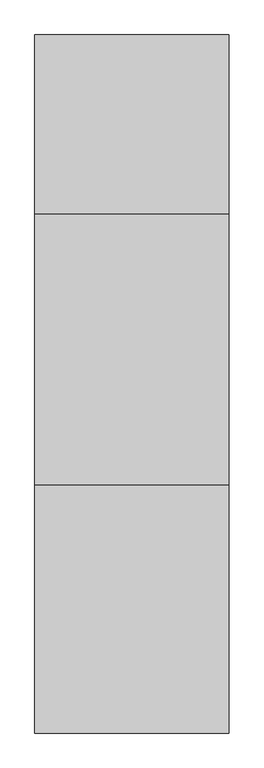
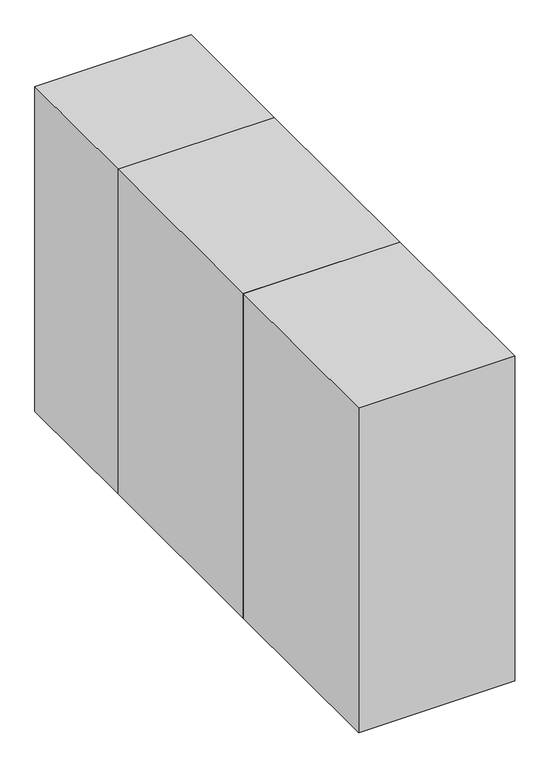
"""IFC4 building model written with IfcOpenShell, lengths in millimetres: furniture geometry, BIMHealth-Amplifier_Cabinet-LOD2A-v1 : BIMHealth-Amplifier_Cabinet-LOD2A-v1."""

from ifc_helpers import new_model, si_unit, point, frame, frame_2d, origin, origin_with_axes, place, context, project, spatial, polyline, circle_curve, trimmed, segment, composite_curve, outline, extrude, source, transform, mapped, element, save


def furniture_74cce83f(model_context):
    return source(origin(), model_context, "Body", "SweptSolid", [
        extrude(outline(polyline([(302.5, 490.0), (302.5, 465.0), (-302.5, 465.0), (-302.5, 490.0), (302.5, 490.0)])), frame((0.0, 0.0, 100.0), z_axis=(0.0, 0.0, 1.0), x_axis=(1.0, 0.0, 0.0)), (0.0, 0.0, 1.0), 1350.0),
        extrude(outline(polyline([(75.0, -327.5), (75.0, 327.5), (1475.0, 327.5), (1475.0, -327.5), (75.0, -327.5)]), holes=[polyline([(1425.0, 277.5), (125.0, 277.5), (125.0, -277.5), (1425.0, -277.5), (1425.0, 277.5)])]), frame((0.0, 490.0, 0.0), z_axis=(0.0, 1.0, 0.0), x_axis=(0.0, 0.0, 1.0)), (0.0, 0.0, 1.0), 25.0),
        extrude(outline(polyline([(875.0, 152.5), (775.0, 152.5), (775.0, 252.5), (875.0, 252.5), (875.0, 152.5)]), holes=[composite_curve([segment(trimmed(circle_curve(frame_2d((825.0, 202.5)), 30.0), [point((825.0, 172.5))], [point((825.0, 232.5))], True, "CARTESIAN"), True, "CONTINUOUS"), segment(trimmed(circle_curve(frame_2d((825.0, 202.5)), 30.0), [point((825.0, 232.5))], [point((825.0, 172.5))], True, "CARTESIAN"), True, "CONTINUOUS")], self_intersect=False)]), frame((0.0, 490.0, 0.0), z_axis=(0.0, 1.0, 0.0), x_axis=(0.0, 0.0, 1.0)), (0.0, 0.0, 1.0), 25.0),
        extrude(outline(polyline([(680.0, 277.5), (125.0, -277.5), (125.0, -263.3578644), (665.8578644, 277.5), (680.0, 277.5)])), frame((0.0, 490.0, 0.0), z_axis=(0.0, 1.0, 0.0), x_axis=(0.0, 0.0, 1.0)), (0.0, 0.0, 1.0), 15.0),
        extrude(outline(polyline([(595.1471863, 277.5), (125.0, -192.6471863), (125.0, -178.5050506), (581.0050506, 277.5), (595.1471863, 277.5)])), frame((0.0, 490.0, 0.0), z_axis=(0.0, 1.0, 0.0), x_axis=(0.0, 0.0, 1.0)), (0.0, 0.0, 1.0), 15.0),
        extrude(outline(polyline([(510.2943725, 277.5), (125.0, -107.7943725), (125.0, -93.6522369), (496.1522369, 277.5), (510.2943725, 277.5)])), frame((0.0, 490.0, 0.0), z_axis=(0.0, 1.0, 0.0), x_axis=(0.0, 0.0, 1.0)), (0.0, 0.0, 1.0), 15.0),
        extrude(outline(polyline([(425.4415588, 277.5), (125.0, -22.9415588), (125.0, -8.7994231), (411.2994231, 277.5), (425.4415588, 277.5)])), frame((0.0, 490.0, 0.0), z_axis=(0.0, 1.0, 0.0), x_axis=(0.0, 0.0, 1.0)), (0.0, 0.0, 1.0), 15.0),
        extrude(outline(polyline([(340.588745, 277.5), (125.0, 61.911255), (125.0, 76.0533906), (326.4466094, 277.5), (340.588745, 277.5)])), frame((0.0, 490.0, 0.0), z_axis=(0.0, 1.0, 0.0), x_axis=(0.0, 0.0, 1.0)), (0.0, 0.0, 1.0), 15.0),
        extrude(outline(polyline([(255.7359313, 277.5), (125.0, 146.7640687), (125.0, 160.9062043), (241.5937957, 277.5), (255.7359313, 277.5)])), frame((0.0, 490.0, 0.0), z_axis=(0.0, 1.0, 0.0), x_axis=(0.0, 0.0, 1.0)), (0.0, 0.0, 1.0), 15.0),
        extrude(outline(polyline([(170.8831175, 277.5), (125.0, 231.6168825), (125.0, 245.7590181), (156.7409819, 277.5), (170.8831175, 277.5)])), frame((0.0, 490.0, 0.0), z_axis=(0.0, 1.0, 0.0), x_axis=(0.0, 0.0, 1.0)), (0.0, 0.0, 1.0), 15.0),
        extrude(outline(polyline([(750.7106781, 277.5), (764.8528137, 277.5), (209.8528137, -277.5), (195.7106781, -277.5), (750.7106781, 277.5)])), frame((0.0, 490.0, 0.0), z_axis=(0.0, 1.0, 0.0), x_axis=(0.0, 0.0, 1.0)), (0.0, 0.0, 1.0), 15.0),
        extrude(outline(polyline([(1005.2691193, 277.5), (1019.411255, 277.5), (464.411255, -277.5), (450.2691193, -277.5), (1005.2691193, 277.5)])), frame((0.0, 490.0, 0.0), z_axis=(0.0, 1.0, 0.0), x_axis=(0.0, 0.0, 1.0)), (0.0, 0.0, 1.0), 15.0),
        extrude(outline(polyline([(1090.1219331, 277.5), (1104.2640687, 277.5), (549.2640687, -277.5), (535.1219331, -277.5), (1090.1219331, 277.5)])), frame((0.0, 490.0, 0.0), z_axis=(0.0, 1.0, 0.0), x_axis=(0.0, 0.0, 1.0)), (0.0, 0.0, 1.0), 15.0),
        extrude(outline(polyline([(1174.9747468, 277.5), (1189.1168825, 277.5), (634.1168825, -277.5), (619.9747468, -277.5), (1174.9747468, 277.5)])), frame((0.0, 490.0, 0.0), z_axis=(0.0, 1.0, 0.0), x_axis=(0.0, 0.0, 1.0)), (0.0, 0.0, 1.0), 15.0),
        extrude(outline(polyline([(1259.8275606, 277.5), (1273.9696962, 277.5), (718.9696962, -277.5), (704.8275606, -277.5), (1259.8275606, 277.5)])), frame((0.0, 490.0, 0.0), z_axis=(0.0, 1.0, 0.0), x_axis=(0.0, 0.0, 1.0)), (0.0, 0.0, 1.0), 15.0),
        extrude(outline(polyline([(1344.6803743, 277.5), (1358.8225099, 277.5), (803.8225099, -277.5), (789.6803743, -277.5), (1344.6803743, 277.5)])), frame((0.0, 490.0, 0.0), z_axis=(0.0, 1.0, 0.0), x_axis=(0.0, 0.0, 1.0)), (0.0, 0.0, 1.0), 15.0),
        extrude(outline(polyline([(1425.0, 272.9668119), (1425.0, 258.8246763), (888.6753237, -277.5), (874.5331881, -277.5), (1425.0, 272.9668119)])), frame((0.0, 490.0, 0.0), z_axis=(0.0, 1.0, 0.0), x_axis=(0.0, 0.0, 1.0)), (0.0, 0.0, 1.0), 15.0),
        extrude(outline(polyline([(1425.0, 188.1139982), (1425.0, 173.9718626), (973.5281374, -277.5), (959.3860018, -277.5), (1425.0, 188.1139982)])), frame((0.0, 490.0, 0.0), z_axis=(0.0, 1.0, 0.0), x_axis=(0.0, 0.0, 1.0)), (0.0, 0.0, 1.0), 15.0),
        extrude(outline(polyline([(1425.0, 103.2611845), (1425.0, 89.1190488), (1058.3809512, -277.5), (1044.2388155, -277.5), (1425.0, 103.2611845)])), frame((0.0, 490.0, 0.0), z_axis=(0.0, 1.0, 0.0), x_axis=(0.0, 0.0, 1.0)), (0.0, 0.0, 1.0), 15.0),
        extrude(outline(polyline([(1425.0, 18.4083707), (1425.0, 4.2662351), (1143.2337649, -277.5), (1129.0916293, -277.5), (1425.0, 18.4083707)])), frame((0.0, 490.0, 0.0), z_axis=(0.0, 1.0, 0.0), x_axis=(0.0, 0.0, 1.0)), (0.0, 0.0, 1.0), 15.0),
        extrude(outline(polyline([(1425.0, -66.444443), (1425.0, -80.5865787), (1228.0865787, -277.5), (1213.944443, -277.5), (1425.0, -66.444443)])), frame((0.0, 490.0, 0.0), z_axis=(0.0, 1.0, 0.0), x_axis=(0.0, 0.0, 1.0)), (0.0, 0.0, 1.0), 15.0),
        extrude(outline(polyline([(1425.0, -151.2972568), (1425.0, -165.4393924), (1312.9393924, -277.5), (1298.7972568, -277.5), (1425.0, -151.2972568)])), frame((0.0, 490.0, 0.0), z_axis=(0.0, 1.0, 0.0), x_axis=(0.0, 0.0, 1.0)), (0.0, 0.0, 1.0), 15.0),
        extrude(outline(polyline([(1425.0, -236.1500705), (1425.0, -250.2922061), (1397.7922061, -277.5), (1383.6500705, -277.5), (1425.0, -236.1500705)])), frame((0.0, 490.0, 0.0), z_axis=(0.0, 1.0, 0.0), x_axis=(0.0, 0.0, 1.0)), (0.0, 0.0, 1.0), 15.0),
        extrude(outline(polyline([(294.7056275, -277.5), (280.5634919, -277.5), (770.1955262, 212.1320344), (775.0, 207.3275606), (775.0, 202.7943725), (294.7056275, -277.5)])), frame((0.0, 490.0, 0.0), z_axis=(0.0, 1.0, 0.0), x_axis=(0.0, 0.0, 1.0)), (0.0, 0.0, 1.0), 15.0),
        extrude(outline(polyline([(379.5584412, -277.5), (365.4163056, -277.5), (795.4163056, 152.5), (809.5584412, 152.5), (379.5584412, -277.5)])), frame((0.0, 490.0, 0.0), z_axis=(0.0, 1.0, 0.0), x_axis=(0.0, 0.0, 1.0)), (0.0, 0.0, 1.0), 15.0),
        extrude(outline(polyline([(920.4163056, 277.5), (934.5584412, 277.5), (875.0, 217.9415588), (875.0, 232.0836944), (920.4163056, 277.5)])), frame((0.0, 490.0, 0.0), z_axis=(0.0, 1.0, 0.0), x_axis=(0.0, 0.0, 1.0)), (0.0, 0.0, 1.0), 15.0),
        extrude(outline(polyline([(835.5634919, 277.5), (849.7056275, 277.5), (826.7640687, 254.5584412), (819.6930009, 261.629509), (835.5634919, 277.5)])), frame((0.0, 490.0, 0.0), z_axis=(0.0, 1.0, 0.0), x_axis=(0.0, 0.0, 1.0)), (0.0, 0.0, 1.0), 15.0),
        extrude(outline(polyline([(680.0, -277.5), (665.8578644, -277.5), (125.0, 263.3578644), (125.0, 277.5), (680.0, -277.5)])), frame((0.0, 490.0, 0.0), z_axis=(0.0, 1.0, 0.0), x_axis=(0.0, 0.0, 1.0)), (0.0, 0.0, 1.0), 15.0),
        extrude(outline(polyline([(595.1471863, -277.5), (581.0050506, -277.5), (125.0, 178.5050506), (125.0, 192.6471863), (595.1471863, -277.5)])), frame((0.0, 490.0, 0.0), z_axis=(0.0, 1.0, 0.0), x_axis=(0.0, 0.0, 1.0)), (0.0, 0.0, 1.0), 15.0),
        extrude(outline(polyline([(510.2943725, -277.5), (496.1522369, -277.5), (125.0, 93.6522369), (125.0, 107.7943725), (510.2943725, -277.5)])), frame((0.0, 490.0, 0.0), z_axis=(0.0, 1.0, 0.0), x_axis=(0.0, 0.0, 1.0)), (0.0, 0.0, 1.0), 15.0),
        extrude(outline(polyline([(425.4415588, -277.5), (411.2994231, -277.5), (125.0, 8.7994231), (125.0, 22.9415588), (425.4415588, -277.5)])), frame((0.0, 490.0, 0.0), z_axis=(0.0, 1.0, 0.0), x_axis=(0.0, 0.0, 1.0)), (0.0, 0.0, 1.0), 15.0),
        extrude(outline(polyline([(340.588745, -277.5), (326.4466094, -277.5), (125.0, -76.0533906), (125.0, -61.911255), (340.588745, -277.5)])), frame((0.0, 490.0, 0.0), z_axis=(0.0, 1.0, 0.0), x_axis=(0.0, 0.0, 1.0)), (0.0, 0.0, 1.0), 15.0),
        extrude(outline(polyline([(255.7359313, -277.5), (241.5937957, -277.5), (125.0, -160.9062043), (125.0, -146.7640687), (255.7359313, -277.5)])), frame((0.0, 490.0, 0.0), z_axis=(0.0, 1.0, 0.0), x_axis=(0.0, 0.0, 1.0)), (0.0, 0.0, 1.0), 15.0),
        extrude(outline(polyline([(170.8831175, -277.5), (156.7409819, -277.5), (125.0, -245.7590181), (125.0, -231.6168825), (170.8831175, -277.5)])), frame((0.0, 490.0, 0.0), z_axis=(0.0, 1.0, 0.0), x_axis=(0.0, 0.0, 1.0)), (0.0, 0.0, 1.0), 15.0),
        extrude(outline(polyline([(750.7106781, -277.5), (195.7106781, 277.5), (209.8528137, 277.5), (764.8528137, -277.5), (750.7106781, -277.5)])), frame((0.0, 490.0, 0.0), z_axis=(0.0, 1.0, 0.0), x_axis=(0.0, 0.0, 1.0)), (0.0, 0.0, 1.0), 15.0),
        extrude(outline(polyline([(835.5634919, -277.5), (280.5634919, 277.5), (294.7056275, 277.5), (849.7056275, -277.5), (835.5634919, -277.5)])), frame((0.0, 490.0, 0.0), z_axis=(0.0, 1.0, 0.0), x_axis=(0.0, 0.0, 1.0)), (0.0, 0.0, 1.0), 15.0),
        extrude(outline(polyline([(920.4163056, -277.5), (365.4163056, 277.5), (379.5584412, 277.5), (934.5584412, -277.5), (920.4163056, -277.5)])), frame((0.0, 490.0, 0.0), z_axis=(0.0, 1.0, 0.0), x_axis=(0.0, 0.0, 1.0)), (0.0, 0.0, 1.0), 15.0),
        extrude(outline(polyline([(1005.2691193, -277.5), (450.2691193, 277.5), (464.411255, 277.5), (1019.411255, -277.5), (1005.2691193, -277.5)])), frame((0.0, 490.0, 0.0), z_axis=(0.0, 1.0, 0.0), x_axis=(0.0, 0.0, 1.0)), (0.0, 0.0, 1.0), 15.0),
        extrude(outline(polyline([(1090.1219331, -277.5), (535.1219331, 277.5), (549.2640687, 277.5), (1104.2640687, -277.5), (1090.1219331, -277.5)])), frame((0.0, 490.0, 0.0), z_axis=(0.0, 1.0, 0.0), x_axis=(0.0, 0.0, 1.0)), (0.0, 0.0, 1.0), 15.0),
        extrude(outline(polyline([(1174.9747468, -277.5), (619.9747468, 277.5), (634.1168825, 277.5), (1189.1168825, -277.5), (1174.9747468, -277.5)])), frame((0.0, 490.0, 0.0), z_axis=(0.0, 1.0, 0.0), x_axis=(0.0, 0.0, 1.0)), (0.0, 0.0, 1.0), 15.0),
        extrude(outline(polyline([(1259.8275606, -277.5), (829.8275606, 152.5), (843.9696962, 152.5), (1273.9696962, -277.5), (1259.8275606, -277.5)])), frame((0.0, 490.0, 0.0), z_axis=(0.0, 1.0, 0.0), x_axis=(0.0, 0.0, 1.0)), (0.0, 0.0, 1.0), 15.0),
        extrude(outline(polyline([(1344.6803743, -277.5), (875.0, 192.1803743), (875.0, 206.3225099), (1358.8225099, -277.5), (1344.6803743, -277.5)])), frame((0.0, 490.0, 0.0), z_axis=(0.0, 1.0, 0.0), x_axis=(0.0, 0.0, 1.0)), (0.0, 0.0, 1.0), 15.0),
        extrude(outline(polyline([(1425.0, -272.9668119), (874.5331881, 277.5), (888.6753237, 277.5), (1425.0, -258.8246763), (1425.0, -272.9668119)])), frame((0.0, 490.0, 0.0), z_axis=(0.0, 1.0, 0.0), x_axis=(0.0, 0.0, 1.0)), (0.0, 0.0, 1.0), 15.0),
        extrude(outline(polyline([(1425.0, -188.1139982), (959.3860018, 277.5), (973.5281374, 277.5), (1425.0, -173.9718626), (1425.0, -188.1139982)])), frame((0.0, 490.0, 0.0), z_axis=(0.0, 1.0, 0.0), x_axis=(0.0, 0.0, 1.0)), (0.0, 0.0, 1.0), 15.0),
        extrude(outline(polyline([(1425.0, -103.2611845), (1044.2388155, 277.5), (1058.3809512, 277.5), (1425.0, -89.1190488), (1425.0, -103.2611845)])), frame((0.0, 490.0, 0.0), z_axis=(0.0, 1.0, 0.0), x_axis=(0.0, 0.0, 1.0)), (0.0, 0.0, 1.0), 15.0),
        extrude(outline(polyline([(1425.0, -18.4083707), (1129.0916293, 277.5), (1143.2337649, 277.5), (1425.0, -4.2662351), (1425.0, -18.4083707)])), frame((0.0, 490.0, 0.0), z_axis=(0.0, 1.0, 0.0), x_axis=(0.0, 0.0, 1.0)), (0.0, 0.0, 1.0), 15.0),
        extrude(outline(polyline([(1425.0, 66.444443), (1213.944443, 277.5), (1228.0865787, 277.5), (1425.0, 80.5865787), (1425.0, 66.444443)])), frame((0.0, 490.0, 0.0), z_axis=(0.0, 1.0, 0.0), x_axis=(0.0, 0.0, 1.0)), (0.0, 0.0, 1.0), 15.0),
        extrude(outline(polyline([(1425.0, 151.2972568), (1298.7972568, 277.5), (1312.9393924, 277.5), (1425.0, 165.4393924), (1425.0, 151.2972568)])), frame((0.0, 490.0, 0.0), z_axis=(0.0, 1.0, 0.0), x_axis=(0.0, 0.0, 1.0)), (0.0, 0.0, 1.0), 15.0),
        extrude(outline(polyline([(1425.0, 236.1500705), (1383.6500705, 277.5), (1397.7922061, 277.5), (1425.0, 250.2922061), (1425.0, 236.1500705)])), frame((0.0, 490.0, 0.0), z_axis=(0.0, 1.0, 0.0), x_axis=(0.0, 0.0, 1.0)), (0.0, 0.0, 1.0), 15.0),
        extrude(outline(polyline([(803.8225099, 277.5), (828.8225099, 252.5), (814.6803743, 252.5), (789.6803743, 277.5), (803.8225099, 277.5)])), frame((0.0, 490.0, 0.0), z_axis=(0.0, 1.0, 0.0), x_axis=(0.0, 0.0, 1.0)), (0.0, 0.0, 1.0), 15.0),
        extrude(outline(polyline([(718.9696962, 277.5), (775.0, 221.4696962), (775.0, 207.3275606), (704.8275606, 277.5), (718.9696962, 277.5)])), frame((0.0, 490.0, 0.0), z_axis=(0.0, 1.0, 0.0), x_axis=(0.0, 0.0, 1.0)), (0.0, 0.0, 1.0), 15.0),
        extrude(outline(polyline([(302.5, -490.0), (-302.5, -490.0), (-302.5, -465.0), (302.5, -465.0), (302.5, -490.0)])), frame((0.0, 0.0, 100.0), z_axis=(0.0, 0.0, 1.0), x_axis=(1.0, 0.0, 0.0)), (0.0, 0.0, 1.0), 1350.0),
        extrude(outline(polyline([(75.0, -327.5), (75.0, 327.5), (1475.0, 327.5), (1475.0, -327.5), (75.0, -327.5)]), holes=[polyline([(1425.0, 277.5), (125.0, 277.5), (125.0, -277.5), (1425.0, -277.5), (1425.0, 277.5)])]), frame((0.0, -515.0, 0.0), z_axis=(0.0, 1.0, 0.0), x_axis=(0.0, 0.0, 1.0)), (0.0, 0.0, 1.0), 25.0),
        extrude(outline(polyline([(875.0, 152.5), (775.0, 152.5), (775.0, 252.5), (875.0, 252.5), (875.0, 152.5)]), holes=[composite_curve([segment(trimmed(circle_curve(frame_2d((825.0, 202.5)), 30.0), [point((825.0, 172.5))], [point((825.0, 232.5))], True, "CARTESIAN"), True, "CONTINUOUS"), segment(trimmed(circle_curve(frame_2d((825.0, 202.5)), 30.0), [point((825.0, 232.5))], [point((825.0, 172.5))], True, "CARTESIAN"), True, "CONTINUOUS")], self_intersect=False)]), frame((0.0, -515.0, 0.0), z_axis=(0.0, 1.0, 0.0), x_axis=(0.0, 0.0, 1.0)), (0.0, 0.0, 1.0), 25.0),
        extrude(outline(polyline([(125.0, -277.5), (125.0, -263.3578644), (133.7994231, -254.5584412), (125.0, -245.7590181), (125.0, -231.6168825), (140.870491, -247.4873734), (176.22583, -212.1320344), (140.870491, -176.7766953), (125.0, -192.6471863), (125.0, -178.5050506), (133.7994231, -169.7056275), (125.0, -160.9062043), (125.0, -146.7640687), (140.870491, -162.6345597), (176.22583, -127.2792206), (140.870491, -91.9238816), (125.0, -107.7943725), (125.0, -93.6522369), (133.7994231, -84.8528137), (125.0, -76.0533906), (125.0, -61.911255), (140.870491, -77.7817459), (176.22583, -42.4264069), (140.870491, -7.0710678), (125.0, -22.9415588), (125.0, -8.7994231), (133.7994231, 0.0), (125.0, 8.7994231), (125.0, 22.9415588), (140.870491, 7.0710678), (176.22583, 42.4264069), (140.870491, 77.7817459), (125.0, 61.911255), (125.0, 76.0533906), (133.7994231, 84.8528137), (125.0, 93.6522369), (125.0, 107.7943725), (140.870491, 91.9238816), (176.22583, 127.2792206), (140.870491, 162.6345597), (125.0, 146.7640687), (125.0, 160.9062043), (133.7994231, 169.7056275), (125.0, 178.5050506), (125.0, 192.6471863), (140.870491, 176.7766953), (176.22583, 212.1320344), (140.870491, 247.4873734), (125.0, 231.6168825), (125.0, 245.7590181), (133.7994231, 254.5584412), (125.0, 263.3578644), (125.0, 277.5), (140.870491, 261.629509), (156.7409819, 277.5), (170.8831175, 277.5), (147.9415588, 254.5584412), (183.2968978, 219.2031022), (218.6522369, 254.5584412), (195.7106781, 277.5), (209.8528137, 277.5), (225.7233047, 261.629509), (241.5937957, 277.5), (255.7359313, 277.5), (232.7943725, 254.5584412), (268.1497116, 219.2031022), (303.5050506, 254.5584412), (280.5634919, 277.5), (294.7056275, 277.5), (310.5761184, 261.629509), (326.4466094, 277.5), (340.588745, 277.5), (317.6471863, 254.5584412), (353.0025253, 219.2031022), (388.3578644, 254.5584412), (365.4163056, 277.5), (379.5584412, 277.5), (395.4289322, 261.629509), (411.2994231, 277.5), (425.4415588, 277.5), (402.5, 254.5584412), (437.8553391, 219.2031022), (473.2106781, 254.5584412), (450.2691193, 277.5), (464.411255, 277.5), (480.2817459, 261.629509), (496.1522369, 277.5), (510.2943725, 277.5), (487.3528137, 254.5584412), (522.7081528, 219.2031022), (558.0634919, 254.5584412), (535.1219331, 277.5), (549.2640687, 277.5), (565.1345597, 261.629509), (581.0050506, 277.5), (595.1471863, 277.5), (572.2056275, 254.5584412), (607.5609665, 219.2031022), (642.9163056, 254.5584412), (619.9747468, 277.5), (634.1168825, 277.5), (649.9873734, 261.629509), (665.8578644, 277.5), (680.0, 277.5), (657.0584412, 254.5584412), (692.4137803, 219.2031022), (727.7691193, 254.5584412), (704.8275606, 277.5), (718.9696962, 277.5), (734.8401872, 261.629509), (750.7106781, 277.5), (764.8528137, 277.5), (741.911255, 254.5584412), (775.0, 221.4696962), (775.0, 202.7943725), (741.911255, 169.7056275), (777.266594, 134.3502884), (795.4163056, 152.5), (809.5584412, 152.5), (784.3376618, 127.2792206), (819.6930009, 91.9238816), (855.04834, 127.2792206), (829.8275606, 152.5), (843.9696962, 152.5), (862.1194078, 134.3502884), (897.4747468, 169.7056275), (875.0, 192.1803743), (875.0, 206.3225099), (904.5458146, 176.7766953), (939.9011537, 212.1320344), (904.5458146, 247.4873734), (875.0, 217.9415588), (875.0, 232.0836944), (897.4747468, 254.5584412), (874.5331881, 277.5), (888.6753237, 277.5), (904.5458146, 261.629509), (920.4163056, 277.5), (934.5584412, 277.5), (911.6168825, 254.5584412), (946.9722215, 219.2031022), (982.3275606, 254.5584412), (959.3860018, 277.5), (973.5281374, 277.5), (989.3986284, 261.629509), (1005.2691193, 277.5), (1019.411255, 277.5), (996.4696962, 254.5584412), (1031.8250353, 219.2031022), (1067.1803743, 254.5584412), (1044.2388155, 277.5), (1058.3809512, 277.5), (1074.2514421, 261.629509), (1090.1219331, 277.5), (1104.2640687, 277.5), (1081.3225099, 254.5584412), (1116.677849, 219.2031022), (1152.0331881, 254.5584412), (1129.0916293, 277.5), (1143.2337649, 277.5), (1159.1042559, 261.629509), (1174.9747468, 277.5), (1189.1168825, 277.5), (1166.1753237, 254.5584412), (1201.5306627, 219.2031022), (1236.8860018, 254.5584412), (1213.944443, 277.5), (1228.0865787, 277.5), (1243.9570696, 261.629509), (1259.8275606, 277.5), (1273.9696962, 277.5), (1251.0281374, 254.5584412), (1286.3834765, 219.2031022), (1321.7388155, 254.5584412), (1298.7972568, 277.5), (1312.9393924, 277.5), (1328.8098834, 261.629509), (1344.6803743, 277.5), (1358.8225099, 277.5), (1335.8809512, 254.5584412), (1371.2362902, 219.2031022), (1406.5916293, 254.5584412), (1383.6500705, 277.5), (1397.7922061, 277.5), (1413.6626971, 261.629509), (1425.0, 272.9668119), (1425.0, 258.8246763), (1420.7337649, 254.5584412), (1425.0, 250.2922061), (1425.0, 236.1500705), (1413.6626971, 247.4873734), (1378.307358, 212.1320344), (1413.6626971, 176.7766953), (1425.0, 188.1139982), (1425.0, 173.9718626), (1420.7337649, 169.7056275), (1425.0, 165.4393924), (1425.0, 151.2972568), (1413.6626971, 162.6345597), (1378.307358, 127.2792206), (1413.6626971, 91.9238816), (1425.0, 103.2611845), (1425.0, 89.1190488), (1420.7337649, 84.8528137), (1425.0, 80.5865787), (1425.0, 66.444443), (1413.6626971, 77.7817459), (1378.307358, 42.4264069), (1413.6626971, 7.0710678), (1425.0, 18.4083707), (1425.0, 4.2662351), (1420.7337649, 0.0), (1425.0, -4.2662351), (1425.0, -18.4083707), (1413.6626971, -7.0710678), (1378.307358, -42.4264069), (1413.6626971, -77.7817459), (1425.0, -66.444443), (1425.0, -80.5865787), (1420.7337649, -84.8528137), (1425.0, -89.1190488), (1425.0, -103.2611845), (1413.6626971, -91.9238816), (1378.307358, -127.2792206), (1413.6626971, -162.6345597), (1425.0, -151.2972568), (1425.0, -165.4393924), (1420.7337649, -169.7056275), (1425.0, -173.9718626), (1425.0, -188.1139982), (1413.6626971, -176.7766953), (1378.307358, -212.1320344), (1413.6626971, -247.4873734), (1425.0, -236.1500705), (1425.0, -250.2922061), (1420.7337649, -254.5584412), (1425.0, -258.8246763), (1425.0, -272.9668119), (1413.6626971, -261.629509), (1397.7922061, -277.5), (1383.6500705, -277.5), (1406.5916293, -254.5584412), (1371.2362902, -219.2031022), (1335.8809512, -254.5584412), (1358.8225099, -277.5), (1344.6803743, -277.5), (1328.8098834, -261.629509), (1312.9393924, -277.5), (1298.7972568, -277.5), (1321.7388155, -254.5584412), (1286.3834765, -219.2031022), (1251.0281374, -254.5584412), (1273.9696962, -277.5), (1259.8275606, -277.5), (1243.9570696, -261.629509), (1228.0865787, -277.5), (1213.944443, -277.5), (1236.8860018, -254.5584412), (1201.5306627, -219.2031022), (1166.1753237, -254.5584412), (1189.1168825, -277.5), (1174.9747468, -277.5), (1159.1042559, -261.629509), (1143.2337649, -277.5), (1129.0916293, -277.5), (1152.0331881, -254.5584412), (1116.677849, -219.2031022), (1081.3225099, -254.5584412), (1104.2640687, -277.5), (1090.1219331, -277.5), (1074.2514421, -261.629509), (1058.3809512, -277.5), (1044.2388155, -277.5), (1067.1803743, -254.5584412), (1031.8250353, -219.2031022), (996.4696962, -254.5584412), (1019.411255, -277.5), (1005.2691193, -277.5), (989.3986284, -261.629509), (973.5281374, -277.5), (959.3860018, -277.5), (982.3275606, -254.5584412), (946.9722215, -219.2031022), (911.6168825, -254.5584412), (934.5584412, -277.5), (920.4163056, -277.5), (904.5458146, -261.629509), (888.6753237, -277.5), (874.5331881, -277.5), (897.4747468, -254.5584412), (862.1194078, -219.2031022), (826.7640687, -254.5584412), (849.7056275, -277.5), (835.5634919, -277.5), (819.6930009, -261.629509), (803.8225099, -277.5), (789.6803743, -277.5), (812.6219331, -254.5584412), (777.266594, -219.2031022), (741.911255, -254.5584412), (764.8528137, -277.5), (750.7106781, -277.5), (734.8401872, -261.629509), (718.9696962, -277.5), (704.8275606, -277.5), (727.7691193, -254.5584412), (692.4137803, -219.2031022), (657.0584412, -254.5584412), (680.0, -277.5), (665.8578644, -277.5), (649.9873734, -261.629509), (634.1168825, -277.5), (619.9747468, -277.5), (642.9163056, -254.5584412), (607.5609665, -219.2031022), (572.2056275, -254.5584412), (595.1471863, -277.5), (581.0050506, -277.5), (565.1345597, -261.629509), (549.2640687, -277.5), (535.1219331, -277.5), (558.0634919, -254.5584412), (522.7081528, -219.2031022), (487.3528137, -254.5584412), (510.2943725, -277.5), (496.1522369, -277.5), (480.2817459, -261.629509), (464.411255, -277.5), (450.2691193, -277.5), (473.2106781, -254.5584412), (437.8553391, -219.2031022), (402.5, -254.5584412), (425.4415588, -277.5), (411.2994231, -277.5), (395.4289322, -261.629509), (379.5584412, -277.5), (365.4163056, -277.5), (388.3578644, -254.5584412), (353.0025253, -219.2031022), (317.6471863, -254.5584412), (340.588745, -277.5), (326.4466094, -277.5), (310.5761184, -261.629509), (294.7056275, -277.5), (280.5634919, -277.5), (303.5050506, -254.5584412), (268.1497116, -219.2031022), (232.7943725, -254.5584412), (255.7359313, -277.5), (241.5937957, -277.5), (225.7233047, -261.629509), (209.8528137, -277.5), (195.7106781, -277.5), (218.6522369, -254.5584412), (183.2968978, -219.2031022), (147.9415588, -254.5584412), (170.8831175, -277.5), (156.7409819, -277.5), (140.870491, -261.629509), (125.0, -277.5)]), holes=[polyline([(395.4289322, -7.0710678), (360.0735931, -42.4264069), (395.4289322, -77.7817459), (430.7842712, -42.4264069), (395.4289322, -7.0710678)]), polyline([(353.0025253, -49.4974747), (317.6471863, -84.8528137), (353.0025253, -120.2081528), (388.3578644, -84.8528137), (353.0025253, -49.4974747)]), polyline([(310.5761184, -91.9238816), (275.2207794, -127.2792206), (310.5761184, -162.6345597), (345.9314575, -127.2792206), (310.5761184, -91.9238816)]), polyline([(268.1497116, -134.3502884), (232.7943725, -169.7056275), (268.1497116, -205.0609665), (303.5050506, -169.7056275), (268.1497116, -134.3502884)]), polyline([(225.7233047, -176.7766953), (190.3679656, -212.1320344), (225.7233047, -247.4873734), (261.0786438, -212.1320344), (225.7233047, -176.7766953)]), polyline([(437.8553391, 35.3553391), (402.5, 0.0), (437.8553391, -35.3553391), (473.2106781, 0.0), (437.8553391, 35.3553391)]), polyline([(480.2817459, 77.7817459), (444.9264069, 42.4264069), (480.2817459, 7.0710678), (515.637085, 42.4264069), (480.2817459, 77.7817459)]), polyline([(522.7081528, 120.2081528), (487.3528137, 84.8528137), (522.7081528, 49.4974747), (558.0634919, 84.8528137), (522.7081528, 120.2081528)]), polyline([(565.1345597, 162.6345597), (529.7792206, 127.2792206), (565.1345597, 91.9238816), (600.4898987, 127.2792206), (565.1345597, 162.6345597)]), polyline([(607.5609665, 205.0609665), (572.2056275, 169.7056275), (607.5609665, 134.3502884), (642.9163056, 169.7056275), (607.5609665, 205.0609665)]), polyline([(649.9873734, 247.4873734), (614.6320344, 212.1320344), (649.9873734, 176.7766953), (685.3427125, 212.1320344), (649.9873734, 247.4873734)]), polyline([(353.0025253, -35.3553391), (388.3578644, 0.0), (353.0025253, 35.3553391), (317.6471863, 0.0), (353.0025253, -35.3553391)]), polyline([(310.5761184, -77.7817459), (345.9314575, -42.4264069), (310.5761184, -7.0710678), (275.2207794, -42.4264069), (310.5761184, -77.7817459)]), polyline([(268.1497116, -120.2081528), (303.5050506, -84.8528137), (268.1497116, -49.4974747), (232.7943725, -84.8528137), (268.1497116, -120.2081528)]), polyline([(225.7233047, -162.6345597), (261.0786438, -127.2792206), (225.7233047, -91.9238816), (190.3679656, -127.2792206), (225.7233047, -162.6345597)]), polyline([(183.2968978, -205.0609665), (218.6522369, -169.7056275), (183.2968978, -134.3502884), (147.9415588, -169.7056275), (183.2968978, -205.0609665)]), polyline([(395.4289322, 7.0710678), (430.7842712, 42.4264069), (395.4289322, 77.7817459), (360.0735931, 42.4264069), (395.4289322, 7.0710678)]), polyline([(437.8553391, 49.4974747), (473.2106781, 84.8528137), (437.8553391, 120.2081528), (402.5, 84.8528137), (437.8553391, 49.4974747)]), polyline([(480.2817459, 91.9238816), (515.637085, 127.2792206), (480.2817459, 162.6345597), (444.9264069, 127.2792206), (480.2817459, 91.9238816)]), polyline([(522.7081528, 134.3502884), (558.0634919, 169.7056275), (522.7081528, 205.0609665), (487.3528137, 169.7056275), (522.7081528, 134.3502884)]), polyline([(565.1345597, 176.7766953), (600.4898987, 212.1320344), (565.1345597, 247.4873734), (529.7792206, 212.1320344), (565.1345597, 176.7766953)]), polyline([(268.1497116, 49.4974747), (303.5050506, 84.8528137), (268.1497116, 120.2081528), (232.7943725, 84.8528137), (268.1497116, 49.4974747)]), polyline([(225.7233047, 7.0710678), (261.0786438, 42.4264069), (225.7233047, 77.7817459), (190.3679656, 42.4264069), (225.7233047, 7.0710678)]), polyline([(183.2968978, -35.3553391), (218.6522369, 0.0), (183.2968978, 35.3553391), (147.9415588, 0.0), (183.2968978, -35.3553391)]), polyline([(310.5761184, 91.9238816), (345.9314575, 127.2792206), (310.5761184, 162.6345597), (275.2207794, 127.2792206), (310.5761184, 91.9238816)]), polyline([(353.0025253, 134.3502884), (388.3578644, 169.7056275), (353.0025253, 205.0609665), (317.6471863, 169.7056275), (353.0025253, 134.3502884)]), polyline([(395.4289322, 176.7766953), (430.7842712, 212.1320344), (395.4289322, 247.4873734), (360.0735931, 212.1320344), (395.4289322, 176.7766953)]), polyline([(225.7233047, 91.9238816), (261.0786438, 127.2792206), (225.7233047, 162.6345597), (190.3679656, 127.2792206), (225.7233047, 91.9238816)]), polyline([(183.2968978, 49.4974747), (218.6522369, 84.8528137), (183.2968978, 120.2081528), (147.9415588, 84.8528137), (183.2968978, 49.4974747)]), polyline([(268.1497116, 134.3502884), (303.5050506, 169.7056275), (268.1497116, 205.0609665), (232.7943725, 169.7056275), (268.1497116, 134.3502884)]), polyline([(310.5761184, 176.7766953), (345.9314575, 212.1320344), (310.5761184, 247.4873734), (275.2207794, 212.1320344), (310.5761184, 176.7766953)]), polyline([(183.2968978, 134.3502884), (218.6522369, 169.7056275), (183.2968978, 205.0609665), (147.9415588, 169.7056275), (183.2968978, 134.3502884)]), polyline([(225.7233047, 176.7766953), (261.0786438, 212.1320344), (225.7233047, 247.4873734), (190.3679656, 212.1320344), (225.7233047, 176.7766953)]), polyline([(437.8553391, -49.4974747), (402.5, -84.8528137), (437.8553391, -120.2081528), (473.2106781, -84.8528137), (437.8553391, -49.4974747)]), polyline([(395.4289322, -91.9238816), (360.0735931, -127.2792206), (395.4289322, -162.6345597), (430.7842712, -127.2792206), (395.4289322, -91.9238816)]), polyline([(353.0025253, -134.3502884), (317.6471863, -169.7056275), (353.0025253, -205.0609665), (388.3578644, -169.7056275), (353.0025253, -134.3502884)]), polyline([(310.5761184, -176.7766953), (275.2207794, -212.1320344), (310.5761184, -247.4873734), (345.9314575, -212.1320344), (310.5761184, -176.7766953)]), polyline([(480.2817459, -7.0710678), (444.9264069, -42.4264069), (480.2817459, -77.7817459), (515.637085, -42.4264069), (480.2817459, -7.0710678)]), polyline([(522.7081528, 35.3553391), (487.3528137, 0.0), (522.7081528, -35.3553391), (558.0634919, 0.0), (522.7081528, 35.3553391)]), polyline([(565.1345597, 77.7817459), (529.7792206, 42.4264069), (565.1345597, 7.0710678), (600.4898987, 42.4264069), (565.1345597, 77.7817459)]), polyline([(607.5609665, 120.2081528), (572.2056275, 84.8528137), (607.5609665, 49.4974747), (642.9163056, 84.8528137), (607.5609665, 120.2081528)]), polyline([(649.9873734, 162.6345597), (614.6320344, 127.2792206), (649.9873734, 91.9238816), (685.3427125, 127.2792206), (649.9873734, 162.6345597)]), polyline([(692.4137803, 205.0609665), (657.0584412, 169.7056275), (692.4137803, 134.3502884), (727.7691193, 169.7056275), (692.4137803, 205.0609665)]), polyline([(734.8401872, 247.4873734), (699.4848481, 212.1320344), (734.8401872, 176.7766953), (770.1955262, 212.1320344), (734.8401872, 247.4873734)]), polyline([(480.2817459, -91.9238816), (444.9264069, -127.2792206), (480.2817459, -162.6345597), (515.637085, -127.2792206), (480.2817459, -91.9238816)]), polyline([(437.8553391, -134.3502884), (402.5, -169.7056275), (437.8553391, -205.0609665), (473.2106781, -169.7056275), (437.8553391, -134.3502884)]), polyline([(395.4289322, -176.7766953), (360.0735931, -212.1320344), (395.4289322, -247.4873734), (430.7842712, -212.1320344), (395.4289322, -176.7766953)]), polyline([(522.7081528, -49.4974747), (487.3528137, -84.8528137), (522.7081528, -120.2081528), (558.0634919, -84.8528137), (522.7081528, -49.4974747)]), polyline([(565.1345597, -7.0710678), (529.7792206, -42.4264069), (565.1345597, -77.7817459), (600.4898987, -42.4264069), (565.1345597, -7.0710678)]), polyline([(607.5609665, 35.3553391), (572.2056275, 0.0), (607.5609665, -35.3553391), (642.9163056, 0.0), (607.5609665, 35.3553391)]), polyline([(649.9873734, 77.7817459), (614.6320344, 42.4264069), (649.9873734, 7.0710678), (685.3427125, 42.4264069), (649.9873734, 77.7817459)]), polyline([(692.4137803, 120.2081528), (657.0584412, 84.8528137), (692.4137803, 49.4974747), (727.7691193, 84.8528137), (692.4137803, 120.2081528)]), polyline([(734.8401872, 162.6345597), (699.4848481, 127.2792206), (734.8401872, 91.9238816), (770.1955262, 127.2792206), (734.8401872, 162.6345597)]), polyline([(522.7081528, -134.3502884), (487.3528137, -169.7056275), (522.7081528, -205.0609665), (558.0634919, -169.7056275), (522.7081528, -134.3502884)]), polyline([(480.2817459, -176.7766953), (444.9264069, -212.1320344), (480.2817459, -247.4873734), (515.637085, -212.1320344), (480.2817459, -176.7766953)]), polyline([(565.1345597, -91.9238816), (529.7792206, -127.2792206), (565.1345597, -162.6345597), (600.4898987, -127.2792206), (565.1345597, -91.9238816)]), polyline([(607.5609665, -49.4974747), (572.2056275, -84.8528137), (607.5609665, -120.2081528), (642.9163056, -84.8528137), (607.5609665, -49.4974747)]), polyline([(649.9873734, -7.0710678), (614.6320344, -42.4264069), (649.9873734, -77.7817459), (685.3427125, -42.4264069), (649.9873734, -7.0710678)]), polyline([(692.4137803, 35.3553391), (657.0584412, 0.0), (692.4137803, -35.3553391), (727.7691193, 0.0), (692.4137803, 35.3553391)]), polyline([(734.8401872, 77.7817459), (699.4848481, 42.4264069), (734.8401872, 7.0710678), (770.1955262, 42.4264069), (734.8401872, 77.7817459)]), polyline([(777.266594, 120.2081528), (741.911255, 84.8528137), (777.266594, 49.4974747), (812.6219331, 84.8528137), (777.266594, 120.2081528)]), polyline([(565.1345597, -176.7766953), (529.7792206, -212.1320344), (565.1345597, -247.4873734), (600.4898987, -212.1320344), (565.1345597, -176.7766953)]), polyline([(607.5609665, -134.3502884), (572.2056275, -169.7056275), (607.5609665, -205.0609665), (642.9163056, -169.7056275), (607.5609665, -134.3502884)]), polyline([(649.9873734, -91.9238816), (614.6320344, -127.2792206), (649.9873734, -162.6345597), (685.3427125, -127.2792206), (649.9873734, -91.9238816)]), polyline([(692.4137803, -49.4974747), (657.0584412, -84.8528137), (692.4137803, -120.2081528), (727.7691193, -84.8528137), (692.4137803, -49.4974747)]), polyline([(734.8401872, -7.0710678), (699.4848481, -42.4264069), (734.8401872, -77.7817459), (770.1955262, -42.4264069), (734.8401872, -7.0710678)]), polyline([(777.266594, 35.3553391), (741.911255, 0.0), (777.266594, -35.3553391), (812.6219331, 0.0), (777.266594, 35.3553391)]), polyline([(819.6930009, 77.7817459), (784.3376618, 42.4264069), (819.6930009, 7.0710678), (855.04834, 42.4264069), (819.6930009, 77.7817459)]), polyline([(862.1194078, 120.2081528), (826.7640687, 84.8528137), (862.1194078, 49.4974747), (897.4747468, 84.8528137), (862.1194078, 120.2081528)]), polyline([(904.5458146, 162.6345597), (869.1904756, 127.2792206), (904.5458146, 91.9238816), (939.9011537, 127.2792206), (904.5458146, 162.6345597)]), polyline([(946.9722215, 205.0609665), (911.6168825, 169.7056275), (946.9722215, 134.3502884), (982.3275606, 169.7056275), (946.9722215, 205.0609665)]), polyline([(989.3986284, 247.4873734), (954.0432893, 212.1320344), (989.3986284, 176.7766953), (1024.7539674, 212.1320344), (989.3986284, 247.4873734)]), polyline([(649.9873734, -176.7766953), (614.6320344, -212.1320344), (649.9873734, -247.4873734), (685.3427125, -212.1320344), (649.9873734, -176.7766953)]), polyline([(692.4137803, -134.3502884), (657.0584412, -169.7056275), (692.4137803, -205.0609665), (727.7691193, -169.7056275), (692.4137803, -134.3502884)]), polyline([(734.8401872, -91.9238816), (699.4848481, -127.2792206), (734.8401872, -162.6345597), (770.1955262, -127.2792206), (734.8401872, -91.9238816)]), polyline([(777.266594, -49.4974747), (741.911255, -84.8528137), (777.266594, -120.2081528), (812.6219331, -84.8528137), (777.266594, -49.4974747)]), polyline([(819.6930009, -7.0710678), (784.3376618, -42.4264069), (819.6930009, -77.7817459), (855.04834, -42.4264069), (819.6930009, -7.0710678)]), polyline([(862.1194078, 35.3553391), (826.7640687, 0.0), (862.1194078, -35.3553391), (897.4747468, 0.0), (862.1194078, 35.3553391)]), polyline([(904.5458146, 77.7817459), (869.1904756, 42.4264069), (904.5458146, 7.0710678), (939.9011537, 42.4264069), (904.5458146, 77.7817459)]), polyline([(946.9722215, 120.2081528), (911.6168825, 84.8528137), (946.9722215, 49.4974747), (982.3275606, 84.8528137), (946.9722215, 120.2081528)]), polyline([(989.3986284, 162.6345597), (954.0432893, 127.2792206), (989.3986284, 91.9238816), (1024.7539674, 127.2792206), (989.3986284, 162.6345597)]), polyline([(1031.8250353, 205.0609665), (996.4696962, 169.7056275), (1031.8250353, 134.3502884), (1067.1803743, 169.7056275), (1031.8250353, 205.0609665)]), polyline([(1074.2514421, 247.4873734), (1038.8961031, 212.1320344), (1074.2514421, 176.7766953), (1109.6067812, 212.1320344), (1074.2514421, 247.4873734)]), polyline([(734.8401872, -176.7766953), (699.4848481, -212.1320344), (734.8401872, -247.4873734), (770.1955262, -212.1320344), (734.8401872, -176.7766953)]), polyline([(777.266594, -134.3502884), (741.911255, -169.7056275), (777.266594, -205.0609665), (812.6219331, -169.7056275), (777.266594, -134.3502884)]), polyline([(819.6930009, -91.9238816), (784.3376618, -127.2792206), (819.6930009, -162.6345597), (855.04834, -127.2792206), (819.6930009, -91.9238816)]), polyline([(862.1194078, -49.4974747), (826.7640687, -84.8528137), (862.1194078, -120.2081528), (897.4747468, -84.8528137), (862.1194078, -49.4974747)]), polyline([(904.5458146, -7.0710678), (869.1904756, -42.4264069), (904.5458146, -77.7817459), (939.9011537, -42.4264069), (904.5458146, -7.0710678)]), polyline([(946.9722215, 35.3553391), (911.6168825, 0.0), (946.9722215, -35.3553391), (982.3275606, 0.0), (946.9722215, 35.3553391)]), polyline([(989.3986284, 77.7817459), (954.0432893, 42.4264069), (989.3986284, 7.0710678), (1024.7539674, 42.4264069), (989.3986284, 77.7817459)]), polyline([(1031.8250353, 120.2081528), (996.4696962, 84.8528137), (1031.8250353, 49.4974747), (1067.1803743, 84.8528137), (1031.8250353, 120.2081528)]), polyline([(1074.2514421, 162.6345597), (1038.8961031, 127.2792206), (1074.2514421, 91.9238816), (1109.6067812, 127.2792206), (1074.2514421, 162.6345597)]), polyline([(1116.677849, 205.0609665), (1081.3225099, 169.7056275), (1116.677849, 134.3502884), (1152.0331881, 169.7056275), (1116.677849, 205.0609665)]), polyline([(1159.1042559, 247.4873734), (1123.7489168, 212.1320344), (1159.1042559, 176.7766953), (1194.4595949, 212.1320344), (1159.1042559, 247.4873734)]), polyline([(819.6930009, -176.7766953), (784.3376618, -212.1320344), (819.6930009, -247.4873734), (855.04834, -212.1320344), (819.6930009, -176.7766953)]), polyline([(862.1194078, -134.3502884), (826.7640687, -169.7056275), (862.1194078, -205.0609665), (897.4747468, -169.7056275), (862.1194078, -134.3502884)]), polyline([(904.5458146, -91.9238816), (869.1904756, -127.2792206), (904.5458146, -162.6345597), (939.9011537, -127.2792206), (904.5458146, -91.9238816)]), polyline([(946.9722215, -49.4974747), (911.6168825, -84.8528137), (946.9722215, -120.2081528), (982.3275606, -84.8528137), (946.9722215, -49.4974747)]), polyline([(989.3986284, -7.0710678), (954.0432893, -42.4264069), (989.3986284, -77.7817459), (1024.7539674, -42.4264069), (989.3986284, -7.0710678)]), polyline([(1031.8250353, 35.3553391), (996.4696962, 0.0), (1031.8250353, -35.3553391), (1067.1803743, 0.0), (1031.8250353, 35.3553391)]), polyline([(1074.2514421, 77.7817459), (1038.8961031, 42.4264069), (1074.2514421, 7.0710678), (1109.6067812, 42.4264069), (1074.2514421, 77.7817459)]), polyline([(1116.677849, 120.2081528), (1081.3225099, 84.8528137), (1116.677849, 49.4974747), (1152.0331881, 84.8528137), (1116.677849, 120.2081528)]), polyline([(1159.1042559, 162.6345597), (1123.7489168, 127.2792206), (1159.1042559, 91.9238816), (1194.4595949, 127.2792206), (1159.1042559, 162.6345597)]), polyline([(1201.5306627, 205.0609665), (1166.1753237, 169.7056275), (1201.5306627, 134.3502884), (1236.8860018, 169.7056275), (1201.5306627, 205.0609665)]), polyline([(1243.9570696, 247.4873734), (1208.6017306, 212.1320344), (1243.9570696, 176.7766953), (1279.3124087, 212.1320344), (1243.9570696, 247.4873734)]), polyline([(904.5458146, -176.7766953), (869.1904756, -212.1320344), (904.5458146, -247.4873734), (939.9011537, -212.1320344), (904.5458146, -176.7766953)]), polyline([(946.9722215, -134.3502884), (911.6168825, -169.7056275), (946.9722215, -205.0609665), (982.3275606, -169.7056275), (946.9722215, -134.3502884)]), polyline([(989.3986284, -91.9238816), (954.0432893, -127.2792206), (989.3986284, -162.6345597), (1024.7539674, -127.2792206), (989.3986284, -91.9238816)]), polyline([(1031.8250353, -49.4974747), (996.4696962, -84.8528137), (1031.8250353, -120.2081528), (1067.1803743, -84.8528137), (1031.8250353, -49.4974747)]), polyline([(1074.2514421, -7.0710678), (1038.8961031, -42.4264069), (1074.2514421, -77.7817459), (1109.6067812, -42.4264069), (1074.2514421, -7.0710678)]), polyline([(1116.677849, 35.3553391), (1081.3225099, 0.0), (1116.677849, -35.3553391), (1152.0331881, 0.0), (1116.677849, 35.3553391)]), polyline([(1159.1042559, 77.7817459), (1123.7489168, 42.4264069), (1159.1042559, 7.0710678), (1194.4595949, 42.4264069), (1159.1042559, 77.7817459)]), polyline([(1201.5306627, 120.2081528), (1166.1753237, 84.8528137), (1201.5306627, 49.4974747), (1236.8860018, 84.8528137), (1201.5306627, 120.2081528)]), polyline([(1243.9570696, 162.6345597), (1208.6017306, 127.2792206), (1243.9570696, 91.9238816), (1279.3124087, 127.2792206), (1243.9570696, 162.6345597)]), polyline([(1286.3834765, 205.0609665), (1251.0281374, 169.7056275), (1286.3834765, 134.3502884), (1321.7388155, 169.7056275), (1286.3834765, 205.0609665)]), polyline([(1328.8098834, 247.4873734), (1293.4545443, 212.1320344), (1328.8098834, 176.7766953), (1364.1652224, 212.1320344), (1328.8098834, 247.4873734)]), polyline([(989.3986284, -176.7766953), (954.0432893, -212.1320344), (989.3986284, -247.4873734), (1024.7539674, -212.1320344), (989.3986284, -176.7766953)]), polyline([(1031.8250353, -134.3502884), (996.4696962, -169.7056275), (1031.8250353, -205.0609665), (1067.1803743, -169.7056275), (1031.8250353, -134.3502884)]), polyline([(1074.2514421, -91.9238816), (1038.8961031, -127.2792206), (1074.2514421, -162.6345597), (1109.6067812, -127.2792206), (1074.2514421, -91.9238816)]), polyline([(1116.677849, -49.4974747), (1081.3225099, -84.8528137), (1116.677849, -120.2081528), (1152.0331881, -84.8528137), (1116.677849, -49.4974747)]), polyline([(1159.1042559, -7.0710678), (1123.7489168, -42.4264069), (1159.1042559, -77.7817459), (1194.4595949, -42.4264069), (1159.1042559, -7.0710678)]), polyline([(1201.5306627, 35.3553391), (1166.1753237, 0.0), (1201.5306627, -35.3553391), (1236.8860018, 0.0), (1201.5306627, 35.3553391)]), polyline([(1243.9570696, 77.7817459), (1208.6017306, 42.4264069), (1243.9570696, 7.0710678), (1279.3124087, 42.4264069), (1243.9570696, 77.7817459)]), polyline([(1286.3834765, 120.2081528), (1251.0281374, 84.8528137), (1286.3834765, 49.4974747), (1321.7388155, 84.8528137), (1286.3834765, 120.2081528)]), polyline([(1328.8098834, 162.6345597), (1293.4545443, 127.2792206), (1328.8098834, 91.9238816), (1364.1652224, 127.2792206), (1328.8098834, 162.6345597)]), polyline([(1371.2362902, 205.0609665), (1335.8809512, 169.7056275), (1371.2362902, 134.3502884), (1406.5916293, 169.7056275), (1371.2362902, 205.0609665)]), polyline([(1074.2514421, -176.7766953), (1038.8961031, -212.1320344), (1074.2514421, -247.4873734), (1109.6067812, -212.1320344), (1074.2514421, -176.7766953)]), polyline([(1116.677849, -134.3502884), (1081.3225099, -169.7056275), (1116.677849, -205.0609665), (1152.0331881, -169.7056275), (1116.677849, -134.3502884)]), polyline([(1159.1042559, -91.9238816), (1123.7489168, -127.2792206), (1159.1042559, -162.6345597), (1194.4595949, -127.2792206), (1159.1042559, -91.9238816)]), polyline([(1201.5306627, -49.4974747), (1166.1753237, -84.8528137), (1201.5306627, -120.2081528), (1236.8860018, -84.8528137), (1201.5306627, -49.4974747)]), polyline([(1243.9570696, -7.0710678), (1208.6017306, -42.4264069), (1243.9570696, -77.7817459), (1279.3124087, -42.4264069), (1243.9570696, -7.0710678)]), polyline([(1286.3834765, 35.3553391), (1251.0281374, 0.0), (1286.3834765, -35.3553391), (1321.7388155, 0.0), (1286.3834765, 35.3553391)]), polyline([(1328.8098834, 77.7817459), (1293.4545443, 42.4264069), (1328.8098834, 7.0710678), (1364.1652224, 42.4264069), (1328.8098834, 77.7817459)]), polyline([(1371.2362902, 120.2081528), (1335.8809512, 84.8528137), (1371.2362902, 49.4974747), (1406.5916293, 84.8528137), (1371.2362902, 120.2081528)]), polyline([(1159.1042559, -176.7766953), (1123.7489168, -212.1320344), (1159.1042559, -247.4873734), (1194.4595949, -212.1320344), (1159.1042559, -176.7766953)]), polyline([(1201.5306627, -134.3502884), (1166.1753237, -169.7056275), (1201.5306627, -205.0609665), (1236.8860018, -169.7056275), (1201.5306627, -134.3502884)]), polyline([(1243.9570696, -91.9238816), (1208.6017306, -127.2792206), (1243.9570696, -162.6345597), (1279.3124087, -127.2792206), (1243.9570696, -91.9238816)]), polyline([(1286.3834765, -49.4974747), (1251.0281374, -84.8528137), (1286.3834765, -120.2081528), (1321.7388155, -84.8528137), (1286.3834765, -49.4974747)]), polyline([(1328.8098834, -7.0710678), (1293.4545443, -42.4264069), (1328.8098834, -77.7817459), (1364.1652224, -42.4264069), (1328.8098834, -7.0710678)]), polyline([(1371.2362902, 35.3553391), (1335.8809512, 0.0), (1371.2362902, -35.3553391), (1406.5916293, 0.0), (1371.2362902, 35.3553391)]), polyline([(1243.9570696, -176.7766953), (1208.6017306, -212.1320344), (1243.9570696, -247.4873734), (1279.3124087, -212.1320344), (1243.9570696, -176.7766953)]), polyline([(1286.3834765, -134.3502884), (1251.0281374, -169.7056275), (1286.3834765, -205.0609665), (1321.7388155, -169.7056275), (1286.3834765, -134.3502884)]), polyline([(1328.8098834, -91.9238816), (1293.4545443, -127.2792206), (1328.8098834, -162.6345597), (1364.1652224, -127.2792206), (1328.8098834, -91.9238816)]), polyline([(1371.2362902, -49.4974747), (1335.8809512, -84.8528137), (1371.2362902, -120.2081528), (1406.5916293, -84.8528137), (1371.2362902, -49.4974747)]), polyline([(1328.8098834, -176.7766953), (1293.4545443, -212.1320344), (1328.8098834, -247.4873734), (1364.1652224, -212.1320344), (1328.8098834, -176.7766953)]), polyline([(1371.2362902, -134.3502884), (1335.8809512, -169.7056275), (1371.2362902, -205.0609665), (1406.5916293, -169.7056275), (1371.2362902, -134.3502884)]), polyline([(310.5761184, 7.0710678), (345.9314575, 42.4264069), (310.5761184, 77.7817459), (275.2207794, 42.4264069), (310.5761184, 7.0710678)]), polyline([(268.1497116, -35.3553391), (303.5050506, 0.0), (268.1497116, 35.3553391), (232.7943725, 0.0), (268.1497116, -35.3553391)]), polyline([(225.7233047, -77.7817459), (261.0786438, -42.4264069), (225.7233047, -7.0710678), (190.3679656, -42.4264069), (225.7233047, -77.7817459)]), polyline([(183.2968978, -120.2081528), (218.6522369, -84.8528137), (183.2968978, -49.4974747), (147.9415588, -84.8528137), (183.2968978, -120.2081528)]), polyline([(353.0025253, 49.4974747), (388.3578644, 84.8528137), (353.0025253, 120.2081528), (317.6471863, 84.8528137), (353.0025253, 49.4974747)]), polyline([(395.4289322, 91.9238816), (430.7842712, 127.2792206), (395.4289322, 162.6345597), (360.0735931, 127.2792206), (395.4289322, 91.9238816)]), polyline([(437.8553391, 134.3502884), (473.2106781, 169.7056275), (437.8553391, 205.0609665), (402.5, 169.7056275), (437.8553391, 134.3502884)]), polyline([(480.2817459, 176.7766953), (515.637085, 212.1320344), (480.2817459, 247.4873734), (444.9264069, 212.1320344), (480.2817459, 176.7766953)])]), frame((0.0, -505.0, 0.0), z_axis=(0.0, 1.0, 0.0), x_axis=(0.0, 0.0, 1.0)), (0.0, 0.0, 1.0), 15.0),
        extrude(outline(polyline([(835.5634919, 277.5), (849.7056275, 277.5), (826.7640687, 254.5584412), (828.8225099, 252.5), (814.6803743, 252.5), (789.6803743, 277.5), (803.8225099, 277.5), (819.6930009, 261.629509), (835.5634919, 277.5)])), frame((0.0, -505.0, 0.0), z_axis=(0.0, 1.0, 0.0), x_axis=(0.0, 0.0, 1.0)), (0.0, 0.0, 1.0), 15.0),
        extrude(outline(polyline([(0.0, -352.5), (0.0, 352.5), (1550.0, 352.5), (1550.0, -352.5), (0.0, -352.5)]), holes=[polyline([(100.0, -302.5), (1450.0, -302.5), (1450.0, 302.5), (100.0, 302.5), (100.0, -302.5)])]), frame((0.0, -490.0, 0.0), z_axis=(0.0, 1.0, 0.0), x_axis=(0.0, 0.0, 1.0)), (0.0, 0.0, 1.0), 980.0),
        extrude(outline(polyline([(-352.5, 1140.0), (352.5, 1140.0), (352.5, 490.0), (-352.5, 490.0), (-352.5, 1140.0)])), origin_with_axes(), (0.0, 0.0, 1.0), 1550.0),
        extrude(outline(polyline([(352.5, -490.0), (352.5, -1390.0), (-352.5, -1390.0), (-352.5, -490.0), (352.5, -490.0)])), origin_with_axes(), (0.0, 0.0, 1.0), 1550.0),
    ])


if __name__ == "__main__":
    model = new_model("IFC4")
    model_context = context("Model", 3, world=origin())
    ifc_project = project(units=[si_unit("LENGTHUNIT", "METRE", prefix="MILLI")], contexts=[model_context])
    site = spatial("IfcSite", under=ifc_project)
    building = spatial("IfcBuilding", under=site)
    placement = place(None, origin())
    furniture_shape = furniture_74cce83f(model_context)
    element("IfcFurniture", 1, ObjectType="BIMHealth-Amplifier_Cabinet-LOD2A-v1 : BIMHealth-Amplifier_Cabinet-LOD2A-v1", at=placement, inside=building, context=model_context, shape_type="MappedRepresentation", body=[
        mapped(furniture_shape, transform((0.0, 0.0, 0.0), x_axis=(1.0, 0.0, 0.0), y_axis=(0.0, 1.0, 0.0), z_axis=(0.0, 0.0, 1.0))),
    ])
    save(model, "model.ifc")
